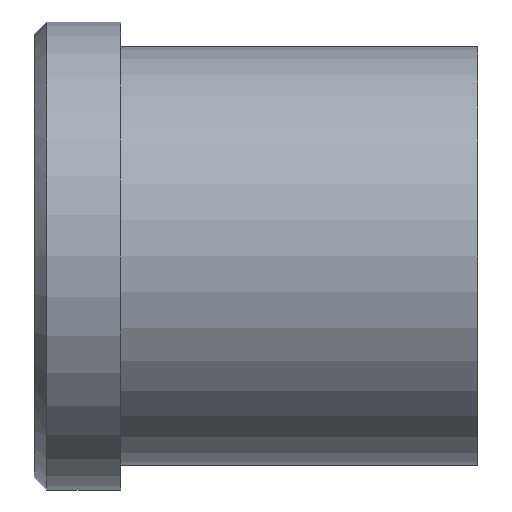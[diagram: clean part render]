
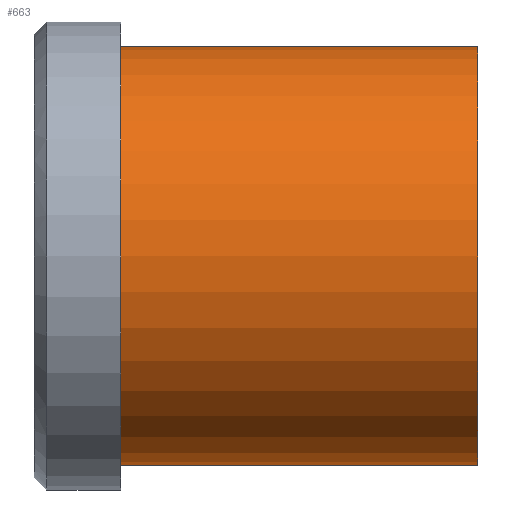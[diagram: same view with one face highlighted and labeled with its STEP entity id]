
A CAD part, front view. The second image highlights one B-rep face of the part: STEP entity #663.
In plain terms, the highlighted cylindrical face has radius 17 mm (diameter 34 mm), a partial arc.
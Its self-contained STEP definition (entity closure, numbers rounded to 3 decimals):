
#501=CARTESIAN_POINT('Vertex',(0.,0.,-17.)) ;
#506=CARTESIAN_POINT('Axis2P3D Location',(0.,0.,0.)) ;
#510=CARTESIAN_POINT('Vertex',(0.,-17.,0.)) ;
#513=CARTESIAN_POINT('Axis2P3D Location',(0.,0.,0.)) ;
#517=CARTESIAN_POINT('Vertex',(0.,0.,17.)) ;
#603=CARTESIAN_POINT('Line Origine',(29.,0.,17.)) ;
#607=CARTESIAN_POINT('Vertex',(29.,0.,17.)) ;
#621=CARTESIAN_POINT('Vertex',(29.,0.,-17.)) ;
#624=CARTESIAN_POINT('Line Origine',(29.,0.,-17.)) ;
#638=CARTESIAN_POINT('Axis2P3D Location',(29.,0.,0.)) ;
#643=CARTESIAN_POINT('Axis2P3D Location',(29.,0.,0.)) ;
#647=CARTESIAN_POINT('Vertex',(29.,-17.,0.)) ;
#650=CARTESIAN_POINT('Axis2P3D Location',(29.,0.,0.)) ;
#507=DIRECTION('Axis2P3D Direction',(1.,0.,-0.)) ;
#514=DIRECTION('Axis2P3D Direction',(1.,0.,-0.)) ;
#604=DIRECTION('Vector Direction',(-1.,0.,0.)) ;
#625=DIRECTION('Vector Direction',(-1.,0.,0.)) ;
#639=DIRECTION('Axis2P3D Direction',(-1.,-0.,-0.)) ;
#640=DIRECTION('Axis2P3D XDirection',(0.,0.,-1.)) ;
#644=DIRECTION('Axis2P3D Direction',(-1.,-0.,-0.)) ;
#651=DIRECTION('Axis2P3D Direction',(-1.,-0.,-0.)) ;
#508=AXIS2_PLACEMENT_3D('Circle Axis2P3D',#506,#507,$) ;
#515=AXIS2_PLACEMENT_3D('Circle Axis2P3D',#513,#514,$) ;
#641=AXIS2_PLACEMENT_3D('Cylinder Axis2P3D',#638,#639,#640) ;
#645=AXIS2_PLACEMENT_3D('Circle Axis2P3D',#643,#644,$) ;
#652=AXIS2_PLACEMENT_3D('Circle Axis2P3D',#650,#651,$) ;
#656=ORIENTED_EDGE('',*,*,#628,.T.) ;
#657=ORIENTED_EDGE('',*,*,#649,.F.) ;
#658=ORIENTED_EDGE('',*,*,#654,.F.) ;
#659=ORIENTED_EDGE('',*,*,#609,.T.) ;
#660=ORIENTED_EDGE('',*,*,#519,.T.) ;
#661=ORIENTED_EDGE('',*,*,#512,.T.) ;
#605=VECTOR('Line Direction',#604,1.) ;
#626=VECTOR('Line Direction',#625,1.) ;
#663=ADVANCED_FACE('353-25X36',(#662),#642,.T.) ;
#509=CIRCLE('generated circle',#508,17.) ;
#516=CIRCLE('generated circle',#515,17.) ;
#646=CIRCLE('generated circle',#645,17.) ;
#653=CIRCLE('generated circle',#652,17.) ;
#642=CYLINDRICAL_SURFACE('generated cylinder',#641,17.) ;
#512=EDGE_CURVE('',#511,#502,#509,.T.) ;
#519=EDGE_CURVE('',#518,#511,#516,.T.) ;
#609=EDGE_CURVE('',#608,#518,#606,.T.) ;
#628=EDGE_CURVE('',#502,#622,#627,.F.) ;
#649=EDGE_CURVE('',#648,#622,#646,.F.) ;
#654=EDGE_CURVE('',#608,#648,#653,.F.) ;
#655=EDGE_LOOP('',(#656,#657,#658,#659,#660,#661)) ;
#662=FACE_OUTER_BOUND('',#655,.T.) ;
#606=LINE('Line',#603,#605) ;
#627=LINE('Line',#624,#626) ;
#502=VERTEX_POINT('',#501) ;
#511=VERTEX_POINT('',#510) ;
#518=VERTEX_POINT('',#517) ;
#608=VERTEX_POINT('',#607) ;
#622=VERTEX_POINT('',#621) ;
#648=VERTEX_POINT('',#647) ;
